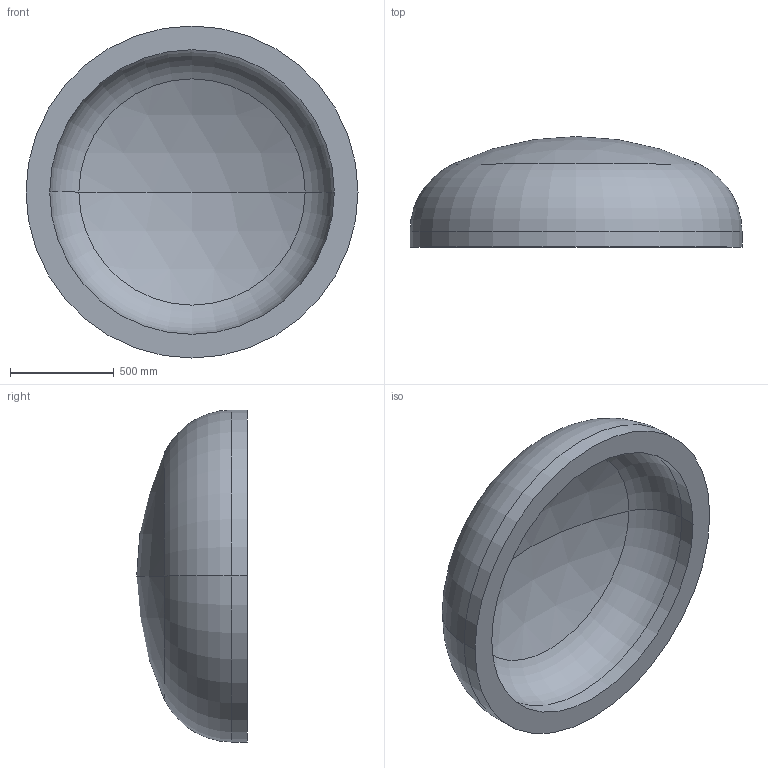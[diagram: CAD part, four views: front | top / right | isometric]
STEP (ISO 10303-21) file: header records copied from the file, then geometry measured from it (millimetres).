
FILE_DESCRIPTION (( 'STEP AP203' ), '1' );
FILE_NAME ('DIN 28013 Korbbogenform_-_Boden DIN 28013 - 1600 x 75 - I - s=114.step', '2016-07-01T11:32:24', ( '' ), ( '' ), 'SwSTEP 2.0', 'SolidWorks 2013', '' );
FILE_SCHEMA (( 'CONFIG_CONTROL_DESIGN' ));
Length unit declared in the file: millimetre
Products named in the file (1): DIN 28013 Korbbogenform_-_Boden DIN 28013 - 1600 x 75 - I - s=114
Bounding box: 1600 x 532.65 x 1600 mm (x, y, z)
Volume: 329694840.3 mm3; surface area: 6343535.8 mm2
Topology: 1 solids, 1 shells, 13 faces, 24 edges, 14 vertices
Faces by surface type: torus 4, cylinder 4, sphere 4, plane 1
Entity records: 407 total; most frequent: DIRECTION 72, CARTESIAN_POINT 52, ORIENTED_EDGE 48, AXIS2_PLACEMENT_3D 34, EDGE_CURVE 24, CIRCLE 20, VERTEX_POINT 14, EDGE_LOOP 14
